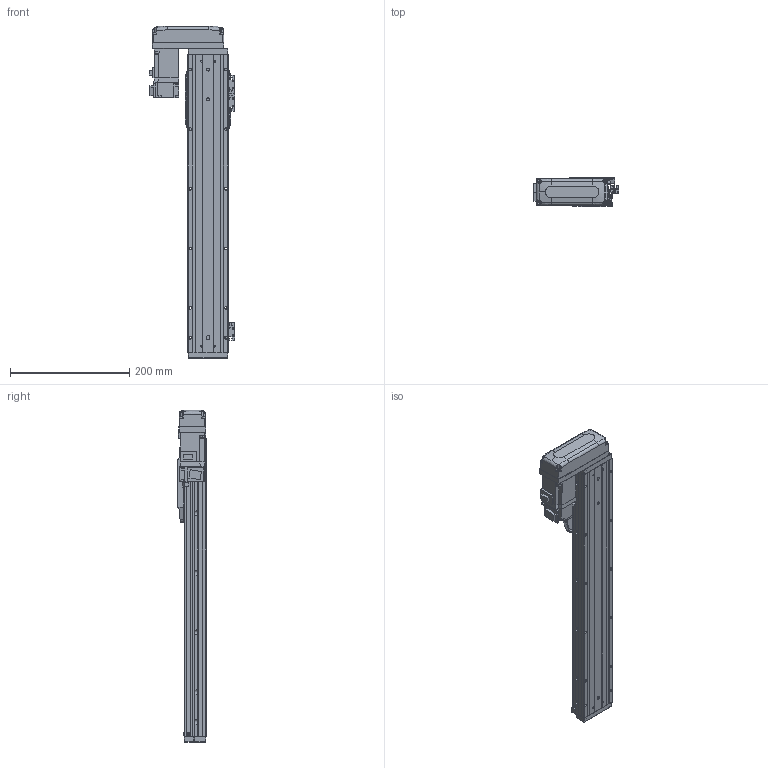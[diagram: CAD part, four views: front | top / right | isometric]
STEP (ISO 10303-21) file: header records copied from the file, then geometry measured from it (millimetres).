
FILE_DESCRIPTION (( 'STEP AP203' ), '1' );
FILE_NAME ('CTHA60-350-BR-M10-C4L.step', '2022-03-19T06:21:55', ( '微软用户' ), ( '微软中国' ), 'SwSTEP 2.0', 'SolidWorks 2020', '' );
FILE_SCHEMA (( 'CONFIG_CONTROL_DESIGN' ));
Length unit declared in the file: millimetre
Products named in the file (18): CTHA60-033; GB¨uT 70.2-M3¡Á6_M3¡Á6; GBT 70.3-M3℅6; CTHA60-350-BR-M10-C4L; EE_SX911P_R; CTHA60-016; CTHA60-017; HG-KR13（三菱）; CTHA60-021; CTHA60-002; CTHA60-001_500; GBT 70.1-M4×16; GBT 70.1-M3℅6; CTHA60-031; CTHA60-004; GBT77-2000 M3×3; CTHA60-006-1; CTHA60-005
Assembly tree (54 placements, depth 2):
  CTHA60-350-BR-M10-C4L
    CTHA60-001_500
    CTHA60-004
    CTHA60-005
    GB¨uT 70.2-M3¡Á6_M3¡Á6  x10
    EE_SX911P_R  x3
    CTHA60-017  x3
    CTHA60-021  x2
    GBT 70.1-M4×16  x10
    GBT77-2000 M3×3  x6
    GBT 70.1-M3℅6  x6
    GBT 70.3-M3℅6  x4
    CTHA60-016  x2
    HG-KR13（三菱）
    CTHA60-002
    CTHA60-031
    CTHA60-006-1
    CTHA60-033
Bounding box: 143.62 x 48 x 557 mm (x, y, z)
Volume: 1047410.4 mm3; surface area: 325762.4 mm2
Topology: 56 solids, 56 shells, 2494 faces, 5981 edges, 3685 vertices
Faces by surface type: plane 1437, cylinder 571, cone 338, torus 92, bspline 32, sphere 24
Entity records: 44365 total; most frequent: CARTESIAN_POINT 8586, DIRECTION 6836, ORIENTED_EDGE 6770, EDGE_CURVE 3385, VECTOR 2400, LINE 2400, AXIS2_PLACEMENT_3D 2218, VERTEX_POINT 2144
